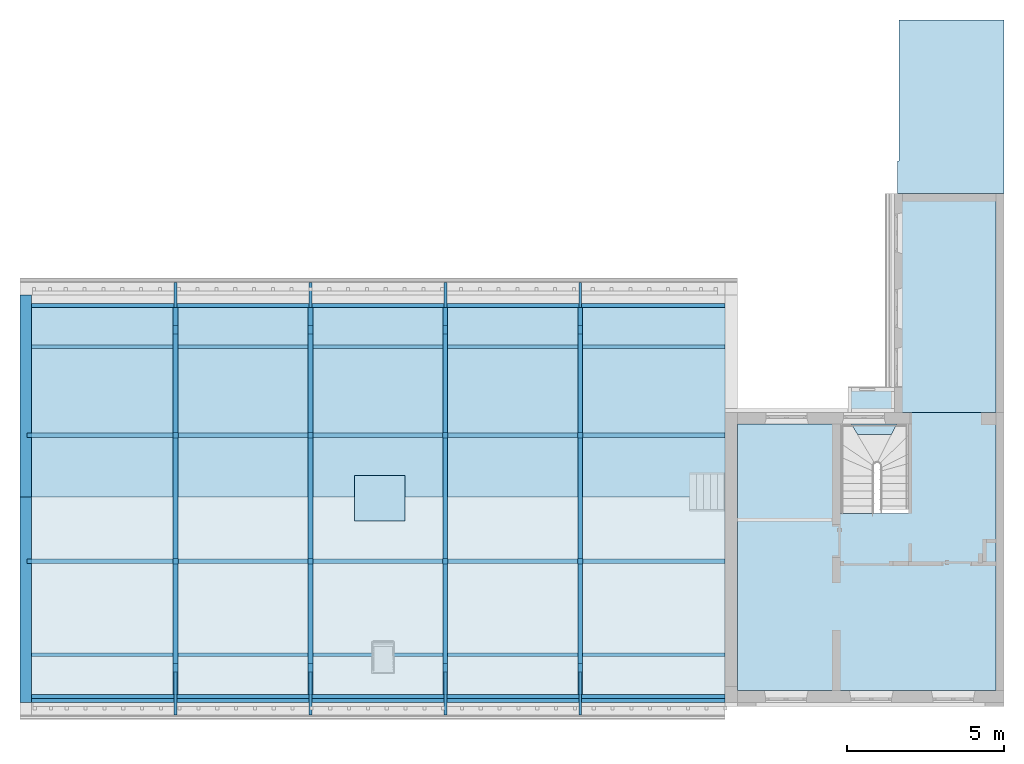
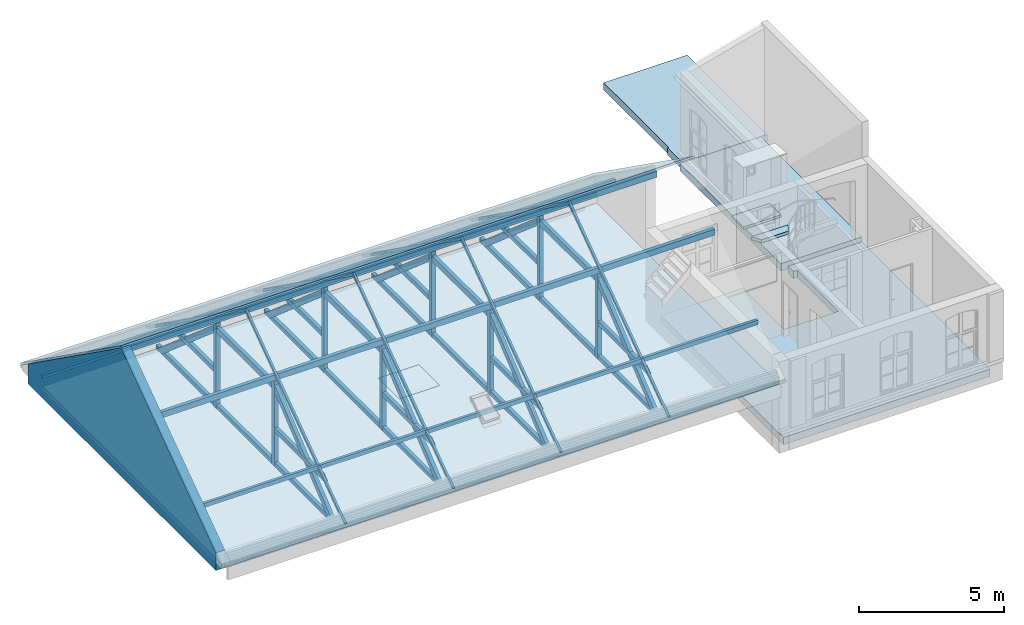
"""IFC4 building model written with IfcOpenShell, lengths in metres."""

from ifc_helpers import new_model, entity, si_unit, converted_unit, derived_unit, frame, frame_2d, origin, origin_with_axes, place, context, subcontext, project, spatial, polyline, rectangle, outline, extrude, clip, bounded_halfspace, faceted_brep, material, layer, layer_set, layer_usage, element, aggregate, save


model = new_model("IFC4")

# Units and contexts
model_context = context("Model", 3, precision=1e-05, world=origin())
body_context = subcontext(model_context, "Body", "Model", "MODEL_VIEW")
ifc_project = project(units=[si_unit("LENGTHUNIT", "METRE"), si_unit("AREAUNIT", "SQUARE_METRE"), si_unit("VOLUMEUNIT", "CUBIC_METRE"), si_unit("MASSUNIT", "GRAM", prefix="KILO"), converted_unit("PLANEANGLEUNIT", "DEGREE", entity("IfcPlaneAngleMeasure", 0.0174532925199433), si_unit("PLANEANGLEUNIT", "RADIAN"), dimensions=[0, 0, 0, 0, 0, 0, 0]), derived_unit("THERMALTRANSMITTANCEUNIT", [(si_unit("POWERUNIT", "WATT"), 1), (si_unit("THERMODYNAMICTEMPERATUREUNIT", "KELVIN"), -1), (si_unit("LENGTHUNIT", "METRE"), -2)]), derived_unit("VOLUMETRICFLOWRATEUNIT", [(si_unit("LENGTHUNIT", "METRE"), 3), (converted_unit("TIMEUNIT", "hour", entity("IfcTimeMeasure", 3600.0), si_unit("TIMEUNIT", "SECOND"), dimensions=[0, 0, 1, 0, 0, 0, 0]), -1), (si_unit("LENGTHUNIT", "METRE"), -1)])], contexts=[model_context])

# Building, storeys
building_placement = place(None, origin())
building = spatial("IfcBuilding", under=ifc_project, at=building_placement, Name="Bestandsgebäude A - Sporthalle / Wohnhaus (TB 100-499)   ANPASSEN !!!", CompositionType="ELEMENT")
storey_1_placement = place(building_placement, frame((0.0, 0.0, 3.87)))
storey_1 = spatial("IfcBuildingStorey", under=building, at=storey_1_placement, Name="Geb. A 1. Obergeschoss (TB 250-299)", CompositionType="ELEMENT", Elevation=3.87)
storey_2_placement = place(storey_1_placement, frame((0.0, 0.0, 3.87)))
storey_2 = spatial("IfcBuildingStorey", under=storey_1, at=storey_2_placement, Name="Architektur (TB 250-259)", CompositionType="PARTIAL")

# Columns
for number, where in (
    (1, (-17.895, 4.41500000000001, -1.34)),
    (2, (-22.195, 4.41500000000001, -1.34)),
    (3, (-26.495, 4.41500000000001, -1.34)),
    (4, (-26.495, 8.43500000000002, -1.34)),
    (5, (-22.195, 8.43500000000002, -1.34)),
    (6, (-17.895, 8.43500000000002, -1.34)),
    (7, (-13.595, 8.43500000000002, -1.34)),
    (8, (-13.595, 4.41500000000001, -1.34)),
):
    element("IfcColumn", number, at=place(storey_2_placement, frame(where)), inside=storey_2, PredefinedType="COLUMN", context=body_context, shape_type="SweptSolid", body=[
        extrude(rectangle(XDim=0.17, YDim=0.18, at=frame_2d((0.085, 0.09), x_axis=(1.0, 0.0))), origin_with_axes(), (0.0, 0.0, 1.0), 3.6),
    ])

# Beams
beam_1_placement = place(storey_2_placement, frame((-13.585, 8.60000000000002, -1.34)))
element("IfcBeam", 9, at=beam_1_placement, inside=storey_2, PredefinedType="BEAM", context=body_context, shape_type="Brep", body=[
    faceted_brep([(0.150000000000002, 3.99999999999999, 0.0), (0.15, 0.0, 3.45), (0.0, 0.0, 3.45), (0.0, 3.99999999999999, 0.0), (0.150000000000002, 3.61722596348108, 0.0), (0.0, 3.61722596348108, 0.0), (0.0, 0.0, 3.11985739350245), (0.15, 0.0, 3.11985739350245)], [[[0, 1, 2, 3]], [[4, 5, 6, 7]], [[4, 7, 1, 0]], [[7, 6, 2, 1]], [[6, 5, 3, 2]], [[5, 4, 0, 3]]], orient=[[False], [False], [False], [False], [False], [False]]),
])
beam_2_placement = place(storey_2_placement, frame((-22.185, 0.249999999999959, -1.34)))
element("IfcBeam", 10, at=beam_2_placement, inside=storey_2, PredefinedType="BEAM", context=body_context, shape_type="Brep", body=[
    faceted_brep([(0.0, 0.0, 0.0), (0.0, 4.18000000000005, 3.45), (0.15, 4.18000000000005, 3.45), (0.149999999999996, 0.0, 0.0), (0.0, 0.392743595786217, 0.0), (0.149999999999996, 0.392743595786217, 0.0), (0.15, 4.18000000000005, 3.12584559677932), (0.0, 4.18000000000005, 3.12584559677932)], [[[0, 1, 2, 3]], [[4, 5, 6, 7]], [[4, 7, 1, 0]], [[7, 6, 2, 1]], [[6, 5, 3, 2]], [[5, 4, 0, 3]]], orient=[[False], [False], [False], [False], [False], [False]]),
])
beam_3_placement = place(storey_2_placement, frame((-22.185, 8.60000000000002, -1.34)))
element("IfcBeam", 11, at=beam_3_placement, inside=storey_2, PredefinedType="BEAM", context=body_context, shape_type="Brep", body=[
    faceted_brep([(0.15, 3.99999999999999, 0.0), (0.149999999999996, 0.0, 3.45), (0.0, 0.0, 3.45), (0.0, 3.99999999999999, 0.0), (0.15, 3.61722596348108, 0.0), (0.0, 3.61722596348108, 0.0), (0.0, 0.0, 3.11985739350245), (0.149999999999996, 0.0, 3.11985739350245)], [[[0, 1, 2, 3]], [[4, 5, 6, 7]], [[4, 7, 1, 0]], [[7, 6, 2, 1]], [[6, 5, 3, 2]], [[5, 4, 0, 3]]], orient=[[False], [False], [False], [False], [False], [False]]),
])
beam_4_placement = place(storey_2_placement, frame((-26.485, 0.249999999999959, -1.34)))
element("IfcBeam", 12, at=beam_4_placement, inside=storey_2, PredefinedType="BEAM", context=body_context, shape_type="Brep", body=[
    faceted_brep([(0.0, 0.0, 0.0), (0.0, 4.18000000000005, 3.45), (0.15, 4.18000000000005, 3.45), (0.149999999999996, 0.0, 0.0), (0.0, 0.392743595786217, 0.0), (0.149999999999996, 0.392743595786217, 0.0), (0.15, 4.18000000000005, 3.12584559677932), (0.0, 4.18000000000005, 3.12584559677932)], [[[0, 1, 2, 3]], [[4, 5, 6, 7]], [[4, 7, 1, 0]], [[7, 6, 2, 1]], [[6, 5, 3, 2]], [[5, 4, 0, 3]]], orient=[[False], [False], [False], [False], [False], [False]]),
])
beam_5_placement = place(storey_2_placement, frame((-26.485, 8.60000000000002, -1.34)))
element("IfcBeam", 13, at=beam_5_placement, inside=storey_2, PredefinedType="BEAM", context=body_context, shape_type="Brep", body=[
    faceted_brep([(0.15, 3.99999999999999, 0.0), (0.149999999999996, 0.0, 3.45), (0.0, 0.0, 3.45), (0.0, 3.99999999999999, 0.0), (0.15, 3.61722596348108, 0.0), (0.0, 3.61722596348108, 0.0), (0.0, 0.0, 3.11985739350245), (0.149999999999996, 0.0, 3.11985739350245)], [[[0, 1, 2, 3]], [[4, 5, 6, 7]], [[4, 7, 1, 0]], [[7, 6, 2, 1]], [[6, 5, 3, 2]], [[5, 4, 0, 3]]], orient=[[False], [False], [False], [False], [False], [False]]),
])
beam_6_placement = place(storey_2_placement, frame((-17.885, 0.249999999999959, -1.34)))
element("IfcBeam", 14, at=beam_6_placement, inside=storey_2, PredefinedType="BEAM", context=body_context, shape_type="Brep", body=[
    faceted_brep([(0.0, 0.0, 0.0), (0.0, 4.18000000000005, 3.45), (0.15, 4.18000000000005, 3.45), (0.149999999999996, 0.0, 0.0), (0.0, 0.392743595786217, 0.0), (0.149999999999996, 0.392743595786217, 0.0), (0.15, 4.18000000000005, 3.12584559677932), (0.0, 4.18000000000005, 3.12584559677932)], [[[0, 1, 2, 3]], [[4, 5, 6, 7]], [[4, 7, 1, 0]], [[7, 6, 2, 1]], [[6, 5, 3, 2]], [[5, 4, 0, 3]]], orient=[[False], [False], [False], [False], [False], [False]]),
])
beam_7_placement = place(storey_2_placement, frame((-17.885, 8.60000000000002, -1.34)))
element("IfcBeam", 15, at=beam_7_placement, inside=storey_2, PredefinedType="BEAM", context=body_context, shape_type="Brep", body=[
    faceted_brep([(0.15, 3.99999999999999, 0.0), (0.149999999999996, 0.0, 3.45), (0.0, 0.0, 3.45), (0.0, 3.99999999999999, 0.0), (0.15, 3.61722596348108, 0.0), (0.0, 3.61722596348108, 0.0), (0.0, 0.0, 3.11985739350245), (0.149999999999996, 0.0, 3.11985739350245)], [[[0, 1, 2, 3]], [[4, 5, 6, 7]], [[4, 7, 1, 0]], [[7, 6, 2, 1]], [[6, 5, 3, 2]], [[5, 4, 0, 3]]], orient=[[False], [False], [False], [False], [False], [False]]),
])
beam_8_placement = place(storey_2_placement, frame((-17.855, -0.39960637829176, -0.88)))
element("IfcBeam", 16, at=beam_8_placement, inside=storey_2, PredefinedType="BEAM", context=body_context, shape_type="Brep", body=[
    faceted_brep([(0.0, 0.0, 0.0), (0.0, 6.91460637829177, 4.92525447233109), (0.09, 6.91460637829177, 4.92525447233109), (0.09, 0.0, 0.0), (0.0, 0.189606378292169, 0.0), (0.09, 0.189606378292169, 0.0), (0.09, 6.91460637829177, 4.79020398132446), (0.0, 6.91460637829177, 4.79020398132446)], [[[0, 1, 2, 3]], [[4, 5, 6, 7]], [[4, 7, 1, 0]], [[7, 6, 2, 1]], [[6, 5, 3, 2]], [[5, 4, 0, 3]]], orient=[[False], [False], [False], [False], [False], [False]]),
])
beam_9_placement = place(storey_2_placement, frame((-17.855, 6.51500000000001, -0.88)))
element("IfcBeam", 17, at=beam_9_placement, inside=storey_2, PredefinedType="BEAM", context=body_context, shape_type="Brep", body=[
    faceted_brep([(0.09, 6.88404565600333, 0.0), (0.09, 0.0, 4.92525447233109), (0.0, 0.0, 4.92525447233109), (0.0, 6.88404565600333, 0.0), (0.09, 6.69499999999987, 0.0), (0.0, 6.69499999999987, 0.0), (0.0, 0.0, 4.79), (0.09, 0.0, 4.79)], [[[0, 1, 2, 3]], [[4, 5, 6, 7]], [[4, 7, 1, 0]], [[7, 6, 2, 1]], [[6, 5, 3, 2]], [[5, 4, 0, 3]]], orient=[[False], [False], [False], [False], [False], [False]]),
])
beam_10_placement = place(storey_2_placement, frame((-22.155, -0.39960637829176, -0.88)))
element("IfcBeam", 18, at=beam_10_placement, inside=storey_2, PredefinedType="BEAM", context=body_context, shape_type="Brep", body=[
    faceted_brep([(0.0, 0.0, 0.0), (0.0, 6.91460637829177, 4.92525447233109), (0.09, 6.91460637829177, 4.92525447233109), (0.09, 0.0, 0.0), (0.0, 0.189606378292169, 0.0), (0.09, 0.189606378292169, 0.0), (0.09, 6.91460637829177, 4.79020398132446), (0.0, 6.91460637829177, 4.79020398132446)], [[[0, 1, 2, 3]], [[4, 5, 6, 7]], [[4, 7, 1, 0]], [[7, 6, 2, 1]], [[6, 5, 3, 2]], [[5, 4, 0, 3]]], orient=[[False], [False], [False], [False], [False], [False]]),
])
beam_11_placement = place(storey_2_placement, frame((-22.155, 6.51500000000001, -0.88)))
element("IfcBeam", 19, at=beam_11_placement, inside=storey_2, PredefinedType="BEAM", context=body_context, shape_type="Brep", body=[
    faceted_brep([(0.09, 6.88404565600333, 0.0), (0.09, 0.0, 4.92525447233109), (0.0, 0.0, 4.92525447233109), (0.0, 6.88404565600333, 0.0), (0.09, 6.69499999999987, 0.0), (0.0, 6.69499999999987, 0.0), (0.0, 0.0, 4.79), (0.09, 0.0, 4.79)], [[[0, 1, 2, 3]], [[4, 5, 6, 7]], [[4, 7, 1, 0]], [[7, 6, 2, 1]], [[6, 5, 3, 2]], [[5, 4, 0, 3]]], orient=[[False], [False], [False], [False], [False], [False]]),
])
beam_12_placement = place(storey_2_placement, frame((-26.455, -0.39960637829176, -0.88)))
element("IfcBeam", 20, at=beam_12_placement, inside=storey_2, PredefinedType="BEAM", context=body_context, shape_type="Brep", body=[
    faceted_brep([(0.0, 0.0, 0.0), (0.0, 6.91460637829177, 4.92525447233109), (0.09, 6.91460637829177, 4.92525447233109), (0.09, 0.0, 0.0), (0.0, 0.189606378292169, 0.0), (0.09, 0.189606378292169, 0.0), (0.09, 6.91460637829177, 4.79020398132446), (0.0, 6.91460637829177, 4.79020398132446)], [[[0, 1, 2, 3]], [[4, 5, 6, 7]], [[4, 7, 1, 0]], [[7, 6, 2, 1]], [[6, 5, 3, 2]], [[5, 4, 0, 3]]], orient=[[False], [False], [False], [False], [False], [False]]),
])
beam_13_placement = place(storey_2_placement, frame((-26.455, 6.51500000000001, -0.88)))
element("IfcBeam", 21, at=beam_13_placement, inside=storey_2, PredefinedType="BEAM", context=body_context, shape_type="Brep", body=[
    faceted_brep([(0.09, 6.88404565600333, 0.0), (0.09, 0.0, 4.92525447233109), (0.0, 0.0, 4.92525447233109), (0.0, 6.88404565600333, 0.0), (0.09, 6.69499999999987, 0.0), (0.0, 6.69499999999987, 0.0), (0.0, 0.0, 4.79), (0.09, 0.0, 4.79)], [[[0, 1, 2, 3]], [[4, 5, 6, 7]], [[4, 7, 1, 0]], [[7, 6, 2, 1]], [[6, 5, 3, 2]], [[5, 4, 0, 3]]], orient=[[False], [False], [False], [False], [False], [False]]),
])
beam_14_placement = place(storey_2_placement, frame((-13.555, -0.39960637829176, -0.88)))
element("IfcBeam", 22, at=beam_14_placement, inside=storey_2, PredefinedType="BEAM", context=body_context, shape_type="Brep", body=[
    faceted_brep([(0.0, 0.0, 0.0), (0.0, 6.91460637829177, 4.92525447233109), (0.09, 6.91460637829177, 4.92525447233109), (0.09, 0.0, 0.0), (0.0, 0.189606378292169, 0.0), (0.09, 0.189606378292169, 0.0), (0.09, 6.91460637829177, 4.79020398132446), (0.0, 6.91460637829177, 4.79020398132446)], [[[0, 1, 2, 3]], [[4, 5, 6, 7]], [[4, 7, 1, 0]], [[7, 6, 2, 1]], [[6, 5, 3, 2]], [[5, 4, 0, 3]]], orient=[[False], [False], [False], [False], [False], [False]]),
])
beam_15_placement = place(storey_2_placement, frame((-13.555, 6.51500000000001, -0.88)))
element("IfcBeam", 23, at=beam_15_placement, inside=storey_2, PredefinedType="BEAM", context=body_context, shape_type="Brep", body=[
    faceted_brep([(0.09, 6.88404565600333, 0.0), (0.09, 0.0, 4.92525447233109), (0.0, 0.0, 4.92525447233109), (0.0, 6.88404565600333, 0.0), (0.09, 6.69499999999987, 0.0), (0.0, 6.69499999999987, 0.0), (0.0, 0.0, 4.79), (0.09, 0.0, 4.79)], [[[0, 1, 2, 3]], [[4, 5, 6, 7]], [[4, 7, 1, 0]], [[7, 6, 2, 1]], [[6, 5, 3, 2]], [[5, 4, 0, 3]]], orient=[[False], [False], [False], [False], [False], [False]]),
])
beam_16_placement = place(storey_2_placement, frame((-13.585, 0.249999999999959, -1.34)))
element("IfcBeam", 24, at=beam_16_placement, inside=storey_2, PredefinedType="BEAM", context=body_context, shape_type="Brep", body=[
    faceted_brep([(0.0, 0.0, 0.0), (0.0, 4.18000000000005, 3.45), (0.150000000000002, 4.18000000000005, 3.45), (0.15, 0.0, 0.0), (0.0, 0.392743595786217, 0.0), (0.15, 0.392743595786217, 0.0), (0.150000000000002, 4.18000000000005, 3.12584559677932), (0.0, 4.18000000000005, 3.12584559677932)], [[[0, 1, 2, 3]], [[4, 5, 6, 7]], [[4, 7, 1, 0]], [[7, 6, 2, 1]], [[6, 5, 3, 2]], [[5, 4, 0, 3]]], orient=[[False], [False], [False], [False], [False], [False]]),
])
beam_17_placement = place(storey_2_placement, frame((-13.585, 0.972519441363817, 0.0972832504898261)))
element("IfcBeam", 25, at=beam_17_placement, inside=storey_2, PredefinedType="BEAM", context=body_context, shape_type="Brep", body=[
    faceted_brep([(0.0, 3.4424805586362, 0.192716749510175), (0.0, 3.4424805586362, 0.00271674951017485), (0.15, 3.4424805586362, 0.00271674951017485), (0.15, 3.4424805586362, 0.192716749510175), (0.15, 0.270578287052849, 0.192716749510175), (0.0, 0.270578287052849, 0.192716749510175), (0.15, 0.0, 0.0), (0.0, 0.0, 0.0)], [[[0, 1, 2, 3]], [[0, 3, 4, 5]], [[3, 2, 6, 4]], [[2, 1, 7, 6]], [[1, 0, 5, 7]], [[5, 4, 6, 7]]], orient=[[False], [False], [False], [False], [False], [False]]),
])
beam_18_placement = place(storey_2_placement, frame((-13.585, 8.61500000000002, 0.1)))
element("IfcBeam", 26, at=beam_18_placement, inside=storey_2, PredefinedType="BEAM", context=body_context, shape_type="Brep", body=[
    faceted_brep([(0.0, 0.0, 0.19), (0.15, 0.0, 0.19), (0.15, 0.0, 0.0), (0.0, 0.0, 0.0), (0.0, 3.14134154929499, 0.19), (0.15, 3.14134154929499, 0.19), (0.15, 3.4081054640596, 0.0), (0.0, 3.4081054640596, 0.0)], [[[0, 1, 2, 3]], [[0, 4, 5, 1]], [[1, 5, 6, 2]], [[2, 6, 7, 3]], [[3, 7, 4, 0]], [[4, 7, 6, 5]]], orient=[[False], [False], [False], [False], [False], [False]]),
])
beam_19_placement = place(storey_2_placement, frame((-17.885, 0.972519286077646, 0.0972832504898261)))
element("IfcBeam", 27, at=beam_19_placement, inside=storey_2, PredefinedType="BEAM", context=body_context, shape_type="Brep", body=[
    faceted_brep([(0.0, 3.4424805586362, 0.192716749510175), (0.0, 3.4424805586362, 0.00271674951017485), (0.15, 3.4424805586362, 0.00271674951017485), (0.15, 3.4424805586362, 0.192716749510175), (0.15, 0.270578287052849, 0.192716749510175), (0.0, 0.270578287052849, 0.192716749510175), (0.15, 0.0, 0.0), (0.0, 0.0, 0.0)], [[[0, 1, 2, 3]], [[0, 3, 4, 5]], [[3, 2, 6, 4]], [[2, 1, 7, 6]], [[1, 0, 5, 7]], [[5, 4, 6, 7]]], orient=[[False], [False], [False], [False], [False], [False]]),
])
beam_20_placement = place(storey_2_placement, frame((-17.885, 8.61499984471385, 0.1)))
element("IfcBeam", 28, at=beam_20_placement, inside=storey_2, PredefinedType="BEAM", context=body_context, shape_type="Brep", body=[
    faceted_brep([(0.0, 0.0, 0.19), (0.15, 0.0, 0.19), (0.15, 0.0, 0.0), (0.0, 0.0, 0.0), (0.0, 3.14134154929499, 0.19), (0.15, 3.14134154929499, 0.19), (0.15, 3.4081054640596, 0.0), (0.0, 3.4081054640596, 0.0)], [[[0, 1, 2, 3]], [[0, 4, 5, 1]], [[1, 5, 6, 2]], [[2, 6, 7, 3]], [[3, 7, 4, 0]], [[4, 7, 6, 5]]], orient=[[False], [False], [False], [False], [False], [False]]),
])
beam_21_placement = place(storey_2_placement, frame((-22.185, 0.972519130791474, 0.0972832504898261)))
element("IfcBeam", 29, at=beam_21_placement, inside=storey_2, PredefinedType="BEAM", context=body_context, shape_type="Brep", body=[
    faceted_brep([(0.0, 3.4424805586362, 0.192716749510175), (0.0, 3.4424805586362, 0.00271674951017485), (0.15, 3.4424805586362, 0.00271674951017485), (0.15, 3.4424805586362, 0.192716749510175), (0.15, 0.270578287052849, 0.192716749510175), (0.0, 0.270578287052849, 0.192716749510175), (0.15, 0.0, 0.0), (0.0, 0.0, 0.0)], [[[0, 1, 2, 3]], [[0, 3, 4, 5]], [[3, 2, 6, 4]], [[2, 1, 7, 6]], [[1, 0, 5, 7]], [[5, 4, 6, 7]]], orient=[[False], [False], [False], [False], [False], [False]]),
])
beam_22_placement = place(storey_2_placement, frame((-22.185, 8.61499968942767, 0.1)))
element("IfcBeam", 30, at=beam_22_placement, inside=storey_2, PredefinedType="BEAM", context=body_context, shape_type="Brep", body=[
    faceted_brep([(0.0, 0.0, 0.19), (0.15, 0.0, 0.19), (0.15, 0.0, 0.0), (0.0, 0.0, 0.0), (0.0, 3.14134154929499, 0.19), (0.15, 3.14134154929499, 0.19), (0.15, 3.4081054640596, 0.0), (0.0, 3.4081054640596, 0.0)], [[[0, 1, 2, 3]], [[0, 4, 5, 1]], [[1, 5, 6, 2]], [[2, 6, 7, 3]], [[3, 7, 4, 0]], [[4, 7, 6, 5]]], orient=[[False], [False], [False], [False], [False], [False]]),
])
beam_23_placement = place(storey_2_placement, frame((-26.485, 0.972518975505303, 0.0972832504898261)))
element("IfcBeam", 31, at=beam_23_placement, inside=storey_2, PredefinedType="BEAM", context=body_context, shape_type="Brep", body=[
    faceted_brep([(0.0, 3.4424805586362, 0.192716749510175), (0.0, 3.4424805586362, 0.00271674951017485), (0.15, 3.4424805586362, 0.00271674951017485), (0.15, 3.4424805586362, 0.192716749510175), (0.15, 0.270578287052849, 0.192716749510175), (0.0, 0.270578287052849, 0.192716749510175), (0.15, 0.0, 0.0), (0.0, 0.0, 0.0)], [[[0, 1, 2, 3]], [[0, 3, 4, 5]], [[3, 2, 6, 4]], [[2, 1, 7, 6]], [[1, 0, 5, 7]], [[5, 4, 6, 7]]], orient=[[False], [False], [False], [False], [False], [False]]),
])
beam_24_placement = place(storey_2_placement, frame((-26.485, 8.6149995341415, 0.1)))
element("IfcBeam", 32, at=beam_24_placement, inside=storey_2, PredefinedType="BEAM", context=body_context, shape_type="Brep", body=[
    faceted_brep([(0.0, 0.0, 0.19), (0.15, 0.0, 0.19), (0.15, 0.0, 0.0), (0.0, 0.0, 0.0), (0.0, 3.14134154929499, 0.19), (0.15, 3.14134154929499, 0.19), (0.15, 3.4081054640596, 0.0), (0.0, 3.4081054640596, 0.0)], [[[0, 1, 2, 3]], [[0, 4, 5, 1]], [[1, 5, 6, 2]], [[2, 6, 7, 3]], [[3, 7, 4, 0]], [[4, 7, 6, 5]]], orient=[[False], [False], [False], [False], [False], [False]]),
])
beam_25_placement = place(storey_2_placement, frame((-31.01, 11.2821163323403, 0.290000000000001), z_axis=(0.0, 0.0, 1.0), x_axis=(1.0, 8.22699865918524e-17, 0.0)))
element("IfcBeam", 33, at=beam_25_placement, inside=storey_2, PredefinedType="NOTDEFINED", context=body_context, shape_type="SweptSolid", body=[
    extrude(rectangle(XDim=0.11, YDim=0.179999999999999, at=frame_2d((0.055, 0.0899999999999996), x_axis=(1.0, 0.0))), frame((0.0, 0.0, 0.0), z_axis=(1.0, 0.0, 0.0), x_axis=(0.0, 1.0, 0.0)), (0.0, 0.0, 1.0), 22.11),
])
beam_26_placement = place(storey_2_placement, frame((-8.9, 1.57485410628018, 0.290000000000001), z_axis=(0.0, 0.0, 1.0), x_axis=(-0.99999999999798, 2.01015126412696e-06, 0.0)))
element("IfcBeam", 34, at=beam_26_placement, inside=storey_2, PredefinedType="NOTDEFINED", context=body_context, shape_type="SweptSolid", body=[
    extrude(rectangle(XDim=0.11, YDim=0.179999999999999, at=frame_2d((0.0550000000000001, 0.0899999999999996), x_axis=(1.0, 0.0))), frame((0.0, 0.0, 0.0), z_axis=(1.0, 0.0, 0.0), x_axis=(0.0, 1.0, 0.0)), (0.0, 0.0, 1.0), 22.1100000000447),
])
beam_27_placement = place(storey_2_placement, frame((-8.9, 0.249955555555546, -1.02), z_axis=(0.0, 0.0, 1.0), x_axis=(-0.99999999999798, 2.01015126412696e-06, 0.0)))
element("IfcBeam", 35, at=beam_27_placement, inside=storey_2, PredefinedType="NOTDEFINED", context=body_context, shape_type="SweptSolid", body=[
    extrude(rectangle(XDim=0.12, YDim=0.14, at=frame_2d((0.06, 0.07), x_axis=(1.0, 0.0))), frame((0.0, 0.0, 0.0), z_axis=(1.0, 0.0, 0.0), x_axis=(0.0, 1.0, 0.0)), (0.0, 0.0, 1.0), 22.1100000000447),
])
beam_28_placement = place(storey_2_placement, frame((-31.01, 12.6, -1.02), z_axis=(0.0, 0.0, 1.0), x_axis=(1.0, 8.22699865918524e-17, 0.0)))
element("IfcBeam", 36, at=beam_28_placement, inside=storey_2, PredefinedType="NOTDEFINED", context=body_context, shape_type="SweptSolid", body=[
    extrude(rectangle(XDim=0.12, YDim=0.14, at=frame_2d((0.06, 0.07), x_axis=(1.0, 0.0))), frame((0.0, 0.0, 0.0), z_axis=(1.0, 0.0, 0.0), x_axis=(0.0, 1.0, 0.0)), (0.0, 0.0, 1.0), 22.11),
])
for number, where, z_axis, x_axis in (
    (37, (-8.90000000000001, 4.58, 2.26), (0.0, 0.0, 1.0), (-1.0, 2.2492000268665e-15, 0.0)),
    (38, (-8.90000000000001, 8.6, 2.26), (0.0, 0.0, 1.0), (-1.0, 2.12651638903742e-15, 0.0)),
):
    element("IfcBeam", number, at=place(storey_2_placement, frame(where, z_axis=z_axis, x_axis=x_axis)), inside=storey_2, PredefinedType="NOTDEFINED", context=body_context, shape_type="SweptSolid", body=[
        extrude(rectangle(XDim=0.15, YDim=0.25, at=frame_2d((0.075, 0.125), x_axis=(1.0, 0.0))), frame((0.0, 0.0, 0.0), z_axis=(1.0, 0.0, 0.0), x_axis=(0.0, 1.0, 0.0)), (0.0, 0.0, 1.0), 22.24),
    ])
beam_29_placement = place(storey_2_placement, frame((-17.735, 0.249999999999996, -1.34), z_axis=(0.0, 0.0, 1.0), x_axis=(2.94573182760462e-16, 1.0, 0.0)))
element("IfcBeam", 39, at=beam_29_placement, inside=storey_2, PredefinedType="NOTDEFINED", context=body_context, shape_type="SweptSolid", body=[
    extrude(rectangle(XDim=0.15, YDim=0.18, at=frame_2d((0.075, 0.09), x_axis=(1.0, 0.0))), frame((0.0, 0.0, 0.0), z_axis=(1.0, 0.0, 0.0), x_axis=(0.0, 1.0, 0.0)), (0.0, 0.0, 1.0), 12.35),
])
beam_30_placement = place(storey_2_placement, frame((-22.035, 4.58000000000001, 1.86), z_axis=(0.0, 0.0, 1.0), x_axis=(0.0, 1.0, 0.0)))
element("IfcBeam", 40, at=beam_30_placement, inside=storey_2, PredefinedType="NOTDEFINED", context=body_context, shape_type="SweptSolid", body=[
    extrude(rectangle(XDim=0.15, YDim=0.25, at=frame_2d((0.075, 0.125), x_axis=(1.0, 0.0))), frame((0.0, 0.0, 0.0), z_axis=(1.0, 0.0, 0.0), x_axis=(0.0, 1.0, 0.0)), (0.0, 0.0, 1.0), 3.87),
])
for number, where, z_axis, x_axis in (
    (41, (-22.035, 0.249999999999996, -1.34), (0.0, 0.0, 1.0), (2.94573182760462e-16, 1.0, 0.0)),
    (42, (-26.335, 0.249999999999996, -1.34), (0.0, 0.0, 1.0), (2.94573182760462e-16, 1.0, 0.0)),
    (43, (-13.435, 0.249999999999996, -1.34), (0.0, 0.0, 1.0), (1.47286591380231e-16, 1.0, 0.0)),
):
    element("IfcBeam", number, at=place(storey_2_placement, frame(where, z_axis=z_axis, x_axis=x_axis)), inside=storey_2, PredefinedType="NOTDEFINED", context=body_context, shape_type="SweptSolid", body=[
        extrude(rectangle(XDim=0.15, YDim=0.18, at=frame_2d((0.075, 0.09), x_axis=(1.0, 0.0))), frame((0.0, 0.0, 0.0), z_axis=(1.0, 0.0, 0.0), x_axis=(0.0, 1.0, 0.0)), (0.0, 0.0, 1.0), 12.35),
    ])
beam_31_placement = place(storey_2_placement, frame((-13.435, 4.59500000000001, 1.86), z_axis=(0.0, 0.0, 1.0), x_axis=(0.0, 1.0, 0.0)))
element("IfcBeam", 44, at=beam_31_placement, inside=storey_2, PredefinedType="NOTDEFINED", context=body_context, shape_type="SweptSolid", body=[
    extrude(rectangle(XDim=0.15, YDim=0.25, at=frame_2d((0.075, 0.125), x_axis=(1.0, 0.0))), frame((0.0, 0.0, 0.0), z_axis=(1.0, 0.0, 0.0), x_axis=(0.0, 1.0, 0.0)), (0.0, 0.0, 1.0), 3.855),
])
beam_32_placement = place(storey_2_placement, frame((-17.735, 4.58000000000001, 1.86), z_axis=(0.0, 0.0, 1.0), x_axis=(0.0, 1.0, 0.0)))
element("IfcBeam", 45, at=beam_32_placement, inside=storey_2, PredefinedType="NOTDEFINED", context=body_context, shape_type="SweptSolid", body=[
    extrude(rectangle(XDim=0.15, YDim=0.25, at=frame_2d((0.075, 0.125), x_axis=(1.0, 0.0))), frame((0.0, 0.0, 0.0), z_axis=(1.0, 0.0, 0.0), x_axis=(0.0, 1.0, 0.0)), (0.0, 0.0, 1.0), 3.87),
])
beam_33_placement = place(storey_2_placement, frame((-26.335, 4.59500000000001, 1.86), z_axis=(0.0, 0.0, 1.0), x_axis=(0.0, 1.0, 0.0)))
element("IfcBeam", 46, at=beam_33_placement, inside=storey_2, PredefinedType="NOTDEFINED", context=body_context, shape_type="SweptSolid", body=[
    extrude(rectangle(XDim=0.15, YDim=0.25, at=frame_2d((0.075, 0.125), x_axis=(1.0, 0.0))), frame((0.0, 0.0, 0.0), z_axis=(1.0, 0.0, 0.0), x_axis=(0.0, 1.0, 0.0)), (0.0, 0.0, 1.0), 3.84),
])

# Slabs
slab_1_placement = place(storey_2_placement, frame((-4.98, 9.25, -1.8)))
element("IfcSlab", 47, at=slab_1_placement, inside=storey_2, PredefinedType="FLOOR", context=body_context, shape_type="SweptSolid", body=[
    extrude(rectangle(XDim=1.48999999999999, YDim=0.79, at=frame_2d((0.0, 0.0), x_axis=(-1.0, 0.0))), frame((0.744999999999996, 0.395, 0.0), z_axis=(0.0, 0.0, 1.0), x_axis=(1.0, 0.0, 0.0)), (0.0, 0.0, 1.0), 0.1),
])
slab_2_placement = place(storey_2_placement, frame((-4.87, 8.54124715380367, -2.05)))
element("IfcSlab", 48, at=slab_2_placement, inside=storey_2, PredefinedType="FLOOR", context=body_context, shape_type="SweptSolid", body=[
    extrude(outline(polyline([(0.0, 0.338752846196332), (0.201977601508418, 0.0), (1.27781838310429, 0.0), (1.44999999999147, 0.338752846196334), (0.0, 0.338752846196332)])), origin_with_axes(), (0.0, 0.0, 1.0), 0.13),
])
slab_3_placement = place(storey_2_placement, frame((-3.39000000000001, 16.23, -4.07)))
element("IfcSlab", 49, at=slab_3_placement, inside=storey_2, PredefinedType="FLOOR", context=body_context, shape_type="SweptSolid", body=[
    extrude(outline(polyline([(3.13000000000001, 0.0), (3.39000000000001, 0.0), (3.39000000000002, 5.53), (0.0500000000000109, 5.53000000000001), (0.0500000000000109, 1.03), (0.0, 1.03), (0.0, 0.0), (3.13000000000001, 0.0)])), origin_with_axes(), (0.0, 0.0, 1.0), 0.3),
])
slab_4_placement = place(storey_2_placement, frame((-3.49000000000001, 9.25, -4.07)))
element("IfcSlab", 50, at=slab_4_placement, inside=storey_2, PredefinedType="FLOOR", context=body_context, shape_type="SweptSolid", body=[
    extrude(outline(polyline([(0.0999999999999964, 6.98), (0.0, 6.98), (0.0, 0.0), (3.23000000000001, 0.0), (3.23000000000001, 6.98), (0.0999999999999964, 6.98)])), origin_with_axes(), (0.0, 0.0, 1.0), 0.3),
])
slab_5_placement = place(storey_2_placement, frame((-8.5, 0.389999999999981, -4.27)))
element("IfcSlab", 51, at=slab_5_placement, inside=storey_2, PredefinedType="FLOOR", context=body_context, shape_type="SweptSolid", body=[
    extrude(outline(polyline([(3.28000000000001, 8.49000000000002), (0.0, 8.49000000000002), (0.0, 0.0), (8.24, 0.0), (8.24000000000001, 8.86000000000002), (5.3, 8.86000000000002), (5.3, 8.49000000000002), (5.45, 8.49000000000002), (5.45, 5.64000000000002), (3.28, 5.64000000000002), (3.28000000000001, 8.49000000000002)])), origin_with_axes(), (0.0, 0.0, 1.0), 0.3),
])
slab_6_placement = place(storey_2_placement, frame((-20.71, 5.79, -1.44)))
element("IfcSlab", 52, at=slab_6_placement, inside=storey_2, PredefinedType="FLOOR", context=body_context, shape_type="SweptSolid", body=[
    extrude(rectangle(XDim=1.45, YDim=1.61000000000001, at=frame_2d((0.805000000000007, -0.725000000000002), x_axis=(0.0, -1.0))), frame((0.0, 1.45, 0.0), z_axis=(0.0, 0.0, 1.0), x_axis=(1.0, 0.0, 0.0)), (0.0, 0.0, 1.0), 0.0999999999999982),
])
slab_7_placement = place(storey_2_placement, frame((-31.01, 0.249955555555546, -1.52)))
element("IfcSlab", 53, at=slab_7_placement, inside=storey_2, PredefinedType="FLOOR", context=body_context, shape_type="SweptSolid", body=[
    extrude(outline(polyline([(0.0, 12.3500444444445), (0.0, 4.44444444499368e-05), (22.11, 0.0), (22.11, 12.3500444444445), (0.0, 12.3500444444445)]), holes=[polyline([(10.3, 5.54004444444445), (10.3, 6.99004444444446), (11.91, 6.99004444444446), (11.91, 5.54004444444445), (10.3, 5.54004444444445)])]), origin_with_axes(), (0.0, 0.0, 1.0), 0.18),
])

# Roof, slab
roof_placement = place(storey_2_placement, frame((0.0, 0.0, -7.74)))
roof = element("IfcRoof", 54, at=roof_placement, inside=storey_2, PredefinedType="NOTDEFINED")
slab_8_placement = place(roof_placement, frame((-31.3706296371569, 6.55971881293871, 6.89305560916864)))
slab_8 = element("IfcSlab", 55, at=slab_8_placement, PredefinedType="ROOF", context=body_context, shape_type="Brep", body=[
    faceted_brep([(22.8706296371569, 8.25917125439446e-07, 4.92365656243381), (22.8706296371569, 6.91291608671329, 0.0), (2.09948061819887e-06, 6.91291443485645, 0.0), (0.000314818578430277, 0.0, 4.92365597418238), (22.8706296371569, 8.25917124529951e-07, 5.02187382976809), (0.000314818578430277, 0.0, 5.02187324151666), (0.0, 6.95932519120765, 0.0651616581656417), (22.8706296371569, 6.95932684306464, 0.0651616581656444), (22.8706296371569, 6.95932684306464, 0.0), (0.0, 6.95932519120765, 0.0)], [[[0, 1, 2, 3]], [[4, 5, 6, 7]], [[4, 7, 8, 1, 0]], [[6, 5, 3, 2, 9]], [[5, 4, 0, 3]], [[8, 9, 2, 1]], [[7, 6, 9, 8]]], orient=[[False], [False], [False], [False], [False], [False], [False]]),
])
aggregate(roof, [slab_8])

# Walls
ifc_material_1 = material(Name="concrete")
ifc_layer_1 = layer(ifc_material_1, 0.25)
ifc_layer_set_1 = layer_set([ifc_layer_1])
ifc_layer_usage_1 = layer_usage(ifc_layer_set_1, "AXIS2", "POSITIVE", 0.0)
wall_1_placement = place(storey_2_placement, frame((-31.0100000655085, 0.0, -1.34), z_axis=(0.0, 0.0, 1.0), x_axis=(1.0, -2.4492935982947e-16, 0.0)))
element("IfcWall", 56, at=wall_1_placement, inside=storey_2, material=ifc_layer_usage_1, Name="reinforced - bearing", PredefinedType="USERDEFINED", context=body_context, shape_type="SweptSolid", body=[
    extrude(rectangle(XDim=22.1100000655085, YDim=0.25, at=frame_2d((11.0550000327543, 0.125), x_axis=(1.0, 0.0))), origin_with_axes(), (0.0, 0.0, 1.0), 0.32),
])
ifc_material_2 = material(Name="concrete")
ifc_layer_2 = layer(ifc_material_2, 0.36)
ifc_layer_set_2 = layer_set([ifc_layer_2])
ifc_layer_usage_2 = layer_usage(ifc_layer_set_2, "AXIS2", "POSITIVE", 0.0)
wall_2_placement = place(storey_2_placement, frame((-31.37, 13.0, -1.34), z_axis=(0.0, 0.0, 1.0), x_axis=(-2.79844523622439e-16, -1.0, 0.0)))
element("IfcWall", 57, at=wall_2_placement, inside=storey_2, material=ifc_layer_usage_2, Name="reinforced - bearing", PredefinedType="USERDEFINED", context=body_context, shape_type="Clipping", body=[
    clip(clip(extrude(rectangle(XDim=13.0, YDim=0.36, at=frame_2d((6.5, 0.18), x_axis=(1.0, 0.0))), origin_with_axes(), (0.0, 0.0, 1.0), 5.41671159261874), bounded_halfspace(frame((3.22014059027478, 0.180000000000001, 3.12319781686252), z_axis=(0.580134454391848, 4.19008649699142e-08, -0.814520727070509), x_axis=(0.81452072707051, 2.2793916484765e-16, 0.580134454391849)), True, origin_with_axes(), polyline([(0.0, 0.0), (6.44028118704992, 0.0), (6.44028117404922, 0.360000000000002), (0.0, 0.36), (0.0, 0.0)]))), bounded_halfspace(frame((9.72014059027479, 0.180000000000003, 3.08066366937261), z_axis=(-0.58013445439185, -9.86696661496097e-16, -0.814520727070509), x_axis=(-0.814520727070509, 2.23788907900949e-16, 0.58013445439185)), True, origin_with_axes(), polyline([(13.0, 0.36), (6.44028117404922, 0.360000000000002), (6.44028118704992, 0.0), (13.0, 0.0), (13.0, 0.36)]))),
])

save(model, "model.ifc")
